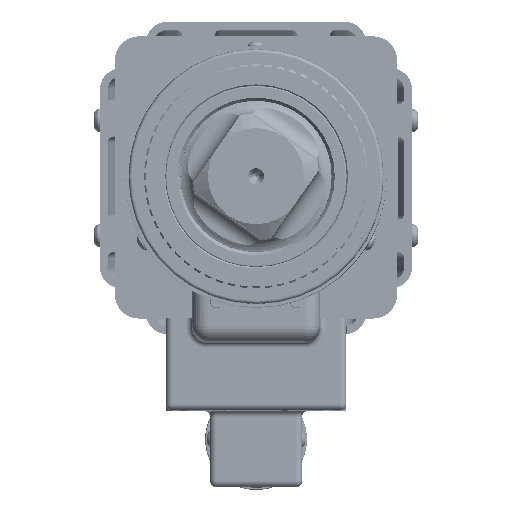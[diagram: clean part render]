
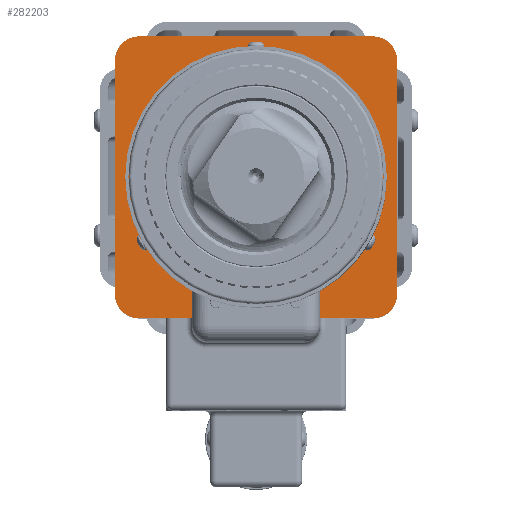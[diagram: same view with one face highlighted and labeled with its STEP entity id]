
A CAD part, top view. The second image highlights one B-rep face of the part: STEP entity #282203.
In plain terms, the highlighted planar face has unit normal (0, 0, 1).
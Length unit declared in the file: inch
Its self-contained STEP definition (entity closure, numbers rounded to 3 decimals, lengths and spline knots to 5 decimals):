
#1606 = DIRECTION ( 'NONE',  ( 1., 0., 0. ) ) ;
#1960 = VERTEX_POINT ( 'NONE', #159664 ) ;
#7216 = AXIS2_PLACEMENT_3D ( 'NONE', #92539, #96151, #287869 ) ;
#7431 = CARTESIAN_POINT ( 'NONE',  ( 1.828, 2.203, -5.49644 ) ) ;
#10956 = ORIENTED_EDGE ( 'NONE', *, *, #239048, .T. ) ;
#16404 = VERTEX_POINT ( 'NONE', #303760 ) ;
#19217 = DIRECTION ( 'NONE',  ( 0., 0., -1. ) ) ;
#24645 = CARTESIAN_POINT ( 'NONE',  ( -0.625, -1.953, -5.49644 ) ) ;
#26747 = EDGE_CURVE ( 'NONE', #1960, #332556, #180172, .T. ) ;
#28862 = DIRECTION ( 'NONE',  ( -1., 0., 0. ) ) ;
#32508 = DIRECTION ( 'NONE',  ( 0., 0., 1. ) ) ;
#32553 = ORIENTED_EDGE ( 'NONE', *, *, #343427, .F. ) ;
#32561 = CARTESIAN_POINT ( 'NONE',  ( 0., 3.5, -5.49644 ) ) ;
#35755 = DIRECTION ( 'NONE',  ( 0., 0., 1. ) ) ;
#41845 = VERTEX_POINT ( 'NONE', #310863 ) ;
#44016 = DIRECTION ( 'NONE',  ( 0., 1., 0. ) ) ;
#50574 = ORIENTED_EDGE ( 'NONE', *, *, #193615, .T. ) ;
#55902 = EDGE_CURVE ( 'NONE', #41845, #16404, #127533, .T. ) ;
#56539 = CARTESIAN_POINT ( 'NONE',  ( 2.203, -2.203, -5.49644 ) ) ;
#60402 = EDGE_LOOP ( 'NONE', ( #62512, #174033 ) ) ;
#60686 = CARTESIAN_POINT ( 'NONE',  ( 2.203, -2.203, -5.49644 ) ) ;
#60949 = CARTESIAN_POINT ( 'NONE',  ( -2.203, 1.828, -5.49644 ) ) ;
#62126 = VERTEX_POINT ( 'NONE', #358620 ) ;
#62512 = ORIENTED_EDGE ( 'NONE', *, *, #207071, .F. ) ;
#68899 = EDGE_LOOP ( 'NONE', ( #256732, #338692, #340951, #286442, #78930, #50574, #150061, #161494 ) ) ;
#77077 = AXIS2_PLACEMENT_3D ( 'NONE', #32561, #193162, #277840 ) ;
#78930 = ORIENTED_EDGE ( 'NONE', *, *, #337838, .F. ) ;
#80613 = VERTEX_POINT ( 'NONE', #245442 ) ;
#83532 = AXIS2_PLACEMENT_3D ( 'NONE', #316219, #32508, #150377 ) ;
#86147 = EDGE_CURVE ( 'NONE', #130683, #62126, #171461, .T. ) ;
#87909 = PLANE ( 'NONE',  #77077 ) ;
#88152 = LINE ( 'NONE', #145287, #283202 ) ;
#92539 = CARTESIAN_POINT ( 'NONE',  ( -0.625, -1.953, -5.49644 ) ) ;
#95057 = CIRCLE ( 'NONE', #336174, 1.6875 ) ;
#96151 = DIRECTION ( 'NONE',  ( 0., 0., 1. ) ) ;
#98102 = DIRECTION ( 'NONE',  ( 0., 0., 1. ) ) ;
#121355 = CARTESIAN_POINT ( 'NONE',  ( -2.203, -2.203, -5.49644 ) ) ;
#125778 = CARTESIAN_POINT ( 'NONE',  ( -1.828, 1.828, -5.49644 ) ) ;
#127533 = CIRCLE ( 'NONE', #333361, 0.375 ) ;
#130460 = DIRECTION ( 'NONE',  ( 0., 0., -1. ) ) ;
#130683 = VERTEX_POINT ( 'NONE', #167352 ) ;
#135057 = EDGE_CURVE ( 'NONE', #258941, #354329, #293891, .T. ) ;
#137460 = VECTOR ( 'NONE', #28862, 39.37008 ) ;
#137819 = FACE_BOUND ( 'NONE', #60402, .T. ) ;
#141655 = CARTESIAN_POINT ( 'NONE',  ( 0.625, -1.953, -5.49644 ) ) ;
#143742 = AXIS2_PLACEMENT_3D ( 'NONE', #343319, #35755, #315859 ) ;
#145287 = CARTESIAN_POINT ( 'NONE',  ( 2.203, 2.203, -5.49644 ) ) ;
#146341 = CARTESIAN_POINT ( 'NONE',  ( 1.828, 1.828, -5.49644 ) ) ;
#146462 = CARTESIAN_POINT ( 'NONE',  ( 0.6695, -1.953, -5.49644 ) ) ;
#149147 = CIRCLE ( 'NONE', #290343, 0.0445 ) ;
#150061 = ORIENTED_EDGE ( 'NONE', *, *, #345945, .F. ) ;
#150377 = DIRECTION ( 'NONE',  ( 1., 0., 0. ) ) ;
#152670 = VERTEX_POINT ( 'NONE', #348062 ) ;
#159117 = EDGE_CURVE ( 'NONE', #258941, #16404, #248874, .T. ) ;
#159664 = CARTESIAN_POINT ( 'NONE',  ( 0.5805, -1.953, -5.49644 ) ) ;
#161494 = ORIENTED_EDGE ( 'NONE', *, *, #55902, .T. ) ;
#161998 = EDGE_LOOP ( 'NONE', ( #262806, #32553 ) ) ;
#167352 = CARTESIAN_POINT ( 'NONE',  ( 1.6875, 0., -5.49644 ) ) ;
#170784 = FACE_BOUND ( 'NONE', #227925, .T. ) ;
#171461 = CIRCLE ( 'NONE', #265688, 1.6875 ) ;
#174033 = ORIENTED_EDGE ( 'NONE', *, *, #26747, .F. ) ;
#174988 = DIRECTION ( 'NONE',  ( 0., -1., 0. ) ) ;
#180172 = CIRCLE ( 'NONE', #256679, 0.0445 ) ;
#188252 = AXIS2_PLACEMENT_3D ( 'NONE', #146341, #282808, #341484 ) ;
#193162 = DIRECTION ( 'NONE',  ( 0., 0., -1. ) ) ;
#193163 = DIRECTION ( 'NONE',  ( -1., 0., 0. ) ) ;
#193615 = EDGE_CURVE ( 'NONE', #80613, #361264, #226117, .T. ) ;
#194263 = DIRECTION ( 'NONE',  ( 0., 0., 1. ) ) ;
#194940 = FACE_BOUND ( 'NONE', #161998, .T. ) ;
#196632 = LINE ( 'NONE', #56539, #137460 ) ;
#196732 = FACE_OUTER_BOUND ( 'NONE', #68899, .T. ) ;
#201582 = VERTEX_POINT ( 'NONE', #360211 ) ;
#206036 = CARTESIAN_POINT ( 'NONE',  ( 0., 0., -5.49644 ) ) ;
#207071 = EDGE_CURVE ( 'NONE', #332556, #1960, #213218, .T. ) ;
#211886 = VERTEX_POINT ( 'NONE', #60949 ) ;
#213218 = CIRCLE ( 'NONE', #83532, 0.0445 ) ;
#223675 = VERTEX_POINT ( 'NONE', #312503 ) ;
#226117 = CIRCLE ( 'NONE', #143742, 0.375 ) ;
#227925 = EDGE_LOOP ( 'NONE', ( #336541, #10956 ) ) ;
#238768 = EDGE_CURVE ( 'NONE', #152670, #354329, #88152, .T. ) ;
#239048 = EDGE_CURVE ( 'NONE', #62126, #130683, #95057, .T. ) ;
#245442 = CARTESIAN_POINT ( 'NONE',  ( -2.203, -1.828, -5.49644 ) ) ;
#248371 = CARTESIAN_POINT ( 'NONE',  ( 1.828, -1.828, -5.49644 ) ) ;
#248515 = EDGE_CURVE ( 'NONE', #201582, #223675, #149147, .T. ) ;
#248874 = LINE ( 'NONE', #60686, #255718 ) ;
#255718 = VECTOR ( 'NONE', #174988, 39.37008 ) ;
#256679 = AXIS2_PLACEMENT_3D ( 'NONE', #141655, #312852, #1606 ) ;
#256732 = ORIENTED_EDGE ( 'NONE', *, *, #159117, .F. ) ;
#258941 = VERTEX_POINT ( 'NONE', #345629 ) ;
#262806 = ORIENTED_EDGE ( 'NONE', *, *, #248515, .F. ) ;
#265688 = AXIS2_PLACEMENT_3D ( 'NONE', #356220, #19217, #348915 ) ;
#267669 = DIRECTION ( 'NONE',  ( -1., 0., 0. ) ) ;
#277840 = DIRECTION ( 'NONE',  ( -1., 0., 0. ) ) ;
#278561 = VECTOR ( 'NONE', #44016, 39.37008 ) ;
#280445 = CARTESIAN_POINT ( 'NONE',  ( -1.828, -2.203, -5.49644 ) ) ;
#282203 = ADVANCED_FACE ( 'NONE', ( #170784, #194940, #137819, #196732 ), #87909, .F. ) ;
#282808 = DIRECTION ( 'NONE',  ( 0., 0., 1. ) ) ;
#283202 = VECTOR ( 'NONE', #364430, 39.37008 ) ;
#286442 = ORIENTED_EDGE ( 'NONE', *, *, #302145, .T. ) ;
#287869 = DIRECTION ( 'NONE',  ( 1., 0., 0. ) ) ;
#290343 = AXIS2_PLACEMENT_3D ( 'NONE', #24645, #194263, #306569 ) ;
#293891 = CIRCLE ( 'NONE', #188252, 0.375 ) ;
#302145 = EDGE_CURVE ( 'NONE', #152670, #211886, #314610, .T. ) ;
#303760 = CARTESIAN_POINT ( 'NONE',  ( 2.203, -1.828, -5.49644 ) ) ;
#306569 = DIRECTION ( 'NONE',  ( 1., 0., 0. ) ) ;
#310863 = CARTESIAN_POINT ( 'NONE',  ( 1.828, -2.203, -5.49644 ) ) ;
#312503 = CARTESIAN_POINT ( 'NONE',  ( -0.6695, -1.953, -5.49644 ) ) ;
#312852 = DIRECTION ( 'NONE',  ( 0., 0., 1. ) ) ;
#314610 = CIRCLE ( 'NONE', #355587, 0.375 ) ;
#315859 = DIRECTION ( 'NONE',  ( -1., 0., 0. ) ) ;
#316219 = CARTESIAN_POINT ( 'NONE',  ( 0.625, -1.953, -5.49644 ) ) ;
#318409 = DIRECTION ( 'NONE',  ( 0., 1., 0. ) ) ;
#322240 = LINE ( 'NONE', #121355, #278561 ) ;
#332556 = VERTEX_POINT ( 'NONE', #146462 ) ;
#333361 = AXIS2_PLACEMENT_3D ( 'NONE', #248371, #360592, #193163 ) ;
#336174 = AXIS2_PLACEMENT_3D ( 'NONE', #206036, #130460, #318409 ) ;
#336541 = ORIENTED_EDGE ( 'NONE', *, *, #86147, .T. ) ;
#337838 = EDGE_CURVE ( 'NONE', #80613, #211886, #322240, .T. ) ;
#338692 = ORIENTED_EDGE ( 'NONE', *, *, #135057, .T. ) ;
#340951 = ORIENTED_EDGE ( 'NONE', *, *, #238768, .F. ) ;
#341484 = DIRECTION ( 'NONE',  ( -1., 0., 0. ) ) ;
#343319 = CARTESIAN_POINT ( 'NONE',  ( -1.828, -1.828, -5.49644 ) ) ;
#343427 = EDGE_CURVE ( 'NONE', #223675, #201582, #348230, .T. ) ;
#345629 = CARTESIAN_POINT ( 'NONE',  ( 2.203, 1.828, -5.49644 ) ) ;
#345945 = EDGE_CURVE ( 'NONE', #41845, #361264, #196632, .T. ) ;
#348062 = CARTESIAN_POINT ( 'NONE',  ( -1.828, 2.203, -5.49644 ) ) ;
#348230 = CIRCLE ( 'NONE', #7216, 0.0445 ) ;
#348915 = DIRECTION ( 'NONE',  ( 0., 1., 0. ) ) ;
#354329 = VERTEX_POINT ( 'NONE', #7431 ) ;
#355587 = AXIS2_PLACEMENT_3D ( 'NONE', #125778, #98102, #267669 ) ;
#356220 = CARTESIAN_POINT ( 'NONE',  ( 0., 0., -5.49644 ) ) ;
#358620 = CARTESIAN_POINT ( 'NONE',  ( -1.6875, 0., -5.49644 ) ) ;
#360211 = CARTESIAN_POINT ( 'NONE',  ( -0.5805, -1.953, -5.49644 ) ) ;
#360592 = DIRECTION ( 'NONE',  ( 0., 0., 1. ) ) ;
#361264 = VERTEX_POINT ( 'NONE', #280445 ) ;
#364430 = DIRECTION ( 'NONE',  ( 1., 0., 0. ) ) ;
